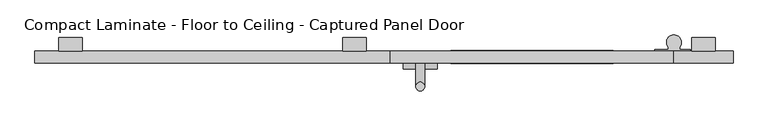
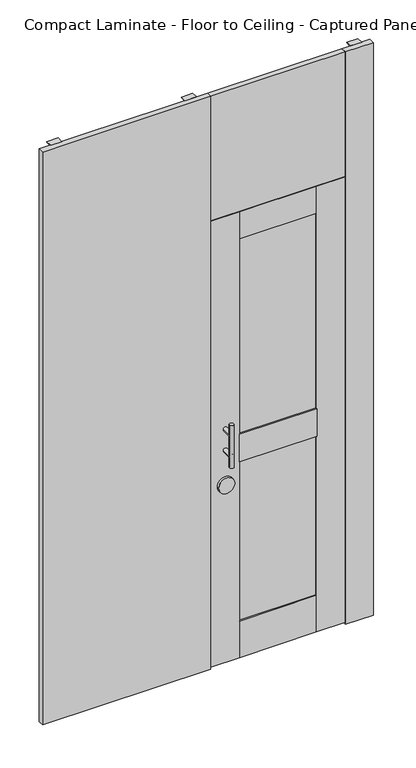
"""IFC4 building model written with IfcOpenShell, lengths in millimetres: proxy geometry, Toilet-Partition_Ironwood-Mfg_Compact-Laminate : Compact Laminate - Floor to Ceiling - Captured Panel Door."""

from ifc_helpers import new_model, si_unit, point, frame, frame_2d, origin, place, context, project, spatial, polyline, circle_curve, ellipse_curve, trimmed, segment, composite_curve, outline, extrude, source, transform, mapped, element, save
from ifc_brep_helpers import plane_surface, cylinder_surface, advanced_brep


def compact_laminate_floor_to_ceiling_captured_panel_door_44a3a528(model_context):
    return source(origin(), model_context, "Body", "SolidModel", [
        extrude(outline(polyline([(-939.8, 2673.35), (-939.8, 2743.2), (-911.225, 2743.2), (-911.225, 2740.025), (-936.625, 2740.025), (-936.625, 2673.35), (-939.8, 2673.35)])), frame((584.2, 0.0, 0.0), z_axis=(1.0, 0.0, 0.0), x_axis=(0.0, 1.0, 0.0)), (0.0, 0.0, 1.0), 50.8),
        extrude(outline(polyline([(-939.8, 69.85), (-936.625, 69.85), (-936.625, 3.175), (-911.225, 3.175), (-911.225, 0.0), (-939.8, 0.0), (-939.8, 69.85)])), frame((584.2, 0.0, 0.0), z_axis=(1.0, 0.0, 0.0), x_axis=(0.0, 1.0, 0.0)), (0.0, 0.0, 1.0), 50.8),
        extrude(outline(polyline([(673.1, -939.8), (673.1, -965.2), (546.1, -965.2), (546.1, -939.8), (673.1, -939.8)])), frame((0.0, 0.0, 3.302), z_axis=(0.0, 0.0, 1.0), x_axis=(1.0, 0.0, 0.0)), (0.0, 0.0, 1.0), 2739.898),
        extrude(outline(polyline([(-939.8, 2673.35), (-939.8, 2743.2), (-911.225, 2743.2), (-911.225, 2740.025), (-936.625, 2740.025), (-936.625, 2673.35), (-939.8, 2673.35)])), frame((-774.7, 0.0, 0.0), z_axis=(1.0, 0.0, 0.0), x_axis=(0.0, 1.0, 0.0)), (0.0, 0.0, 1.0), 50.8),
        extrude(outline(polyline([(-939.8, 2673.35), (-939.8, 2743.2), (-911.225, 2743.2), (-911.225, 2740.025), (-936.625, 2740.025), (-936.625, 2673.35), (-939.8, 2673.35)])), frame((-165.1, 0.0, 0.0), z_axis=(1.0, 0.0, 0.0), x_axis=(0.0, 1.0, 0.0)), (0.0, 0.0, 1.0), 50.8),
        extrude(outline(polyline([(-939.8, 69.85), (-936.625, 69.85), (-936.625, 3.175), (-911.225, 3.175), (-911.225, 0.0), (-939.8, 0.0), (-939.8, 69.85)])), frame((-774.7, 0.0, 0.0), z_axis=(1.0, 0.0, 0.0), x_axis=(0.0, 1.0, 0.0)), (0.0, 0.0, 1.0), 50.8),
        extrude(outline(polyline([(-939.8, 69.85), (-936.625, 69.85), (-936.625, 3.175), (-911.225, 3.175), (-911.225, 0.0), (-939.8, 0.0), (-939.8, 69.85)])), frame((-165.1, 0.0, 0.0), z_axis=(1.0, 0.0, 0.0), x_axis=(0.0, 1.0, 0.0)), (0.0, 0.0, 1.0), 50.8),
        extrude(outline(polyline([(-825.5, -939.8), (-63.5, -939.8), (-63.5, -965.2), (-825.5, -965.2), (-825.5, -939.8)])), frame((0.0, 0.0, 3.302), z_axis=(0.0, 0.0, 1.0), x_axis=(1.0, 0.0, 0.0)), (0.0, 0.0, 1.0), 2739.898),
        extrude(outline(polyline([(415.925, -958.85), (66.675, -958.85), (66.675, -946.15), (415.925, -946.15), (415.925, -958.85)])), frame((0.0, 0.0, 1081.0875), z_axis=(0.0, 0.0, 1.0), x_axis=(1.0, 0.0, 0.0)), (0.0, 0.0, 1.0), 935.0375),
        extrude(outline(polyline([(415.925, -958.85), (66.675, -958.85), (66.675, -946.15), (415.925, -946.15), (415.925, -958.85)])), frame((0.0, 0.0, 187.325), z_axis=(0.0, 0.0, 1.0), x_axis=(1.0, 0.0, 0.0)), (0.0, 0.0, 1.0), 763.5875),
        extrude(outline(polyline([(415.925, -938.2125), (415.925, -966.7875), (66.675, -966.7875), (66.675, -938.2125), (415.925, -938.2125)])), frame((0.0, 0.0, 950.9125), z_axis=(0.0, 0.0, 1.0), x_axis=(1.0, 0.0, 0.0)), (0.0, 0.0, 1.0), 130.175),
        extrude(outline(polyline([(66.675, -939.8), (66.675, -965.2), (-63.5, -965.2), (-63.5, -939.8), (66.675, -939.8)])), frame((0.0, 0.0, 12.7), z_axis=(0.0, 0.0, 1.0), x_axis=(1.0, 0.0, 0.0)), (0.0, 0.0, 1.0), 2133.6),
        extrude(outline(polyline([(415.925, -939.8), (546.1, -939.8), (546.1, -965.2), (415.925, -965.2), (415.925, -939.8)])), frame((0.0, 0.0, 12.7), z_axis=(0.0, 0.0, 1.0), x_axis=(1.0, 0.0, 0.0)), (0.0, 0.0, 1.0), 2133.6),
        extrude(outline(polyline([(415.925, -939.8), (415.925, -965.2), (66.675, -965.2), (66.675, -939.8), (415.925, -939.8)])), frame((0.0, 0.0, 2016.125), z_axis=(0.0, 0.0, 1.0), x_axis=(1.0, 0.0, 0.0)), (0.0, 0.0, 1.0), 130.175),
        extrude(outline(polyline([(415.925, -939.8), (415.925, -965.2), (66.675, -965.2), (66.675, -939.8), (415.925, -939.8)])), frame((0.0, 0.0, 12.7), z_axis=(0.0, 0.0, 1.0), x_axis=(1.0, 0.0, 0.0)), (0.0, 0.0, 1.0), 174.625),
        extrude(outline(composite_curve([segment(trimmed(circle_curve(frame_2d((865.1875, 1.5875)), 36.5125), [point((865.1875, -34.925))], [point((865.1875, 38.1))], False, "CARTESIAN"), True, "CONTINUOUS"), segment(trimmed(circle_curve(frame_2d((865.1875, 1.5875)), 36.5125), [point((865.1875, 38.1))], [point((865.1875, -34.925))], False, "CARTESIAN"), True, "CONTINUOUS")], self_intersect=False)), frame((0.0, -977.9, 0.0), z_axis=(0.0, 1.0, 0.0), x_axis=(0.0, 0.0, 1.0)), (0.0, 0.0, 1.0), 12.7),
        advanced_brep(
        [(-7.9375, -965.2, 1130.3), (11.1125, -965.2, 1130.3), (-7.9375, -965.2, 1028.7), (11.1125, -965.2, 1028.7), (11.1125, -1016.0, 1130.3), (-7.9375, -1016.0, 1130.3), (11.1125, -1016.0, 1028.7), (-7.9375, -1016.0, 1028.7), (-7.9375, -1016.0, 1181.1), (11.1125, -1016.0, 1181.1), (-7.9375, -1016.0, 977.9), (11.1125, -1016.0, 977.9)],
        [
            (0, 1, circle_curve(frame((1.5875, -965.2, 1130.3), z_axis=(0.0, 1.0, 0.0), x_axis=(1.0, 0.0, 0.0)), 9.525)),
            (1, 0, circle_curve(frame((1.5875, -965.2, 1130.3), z_axis=(0.0, 1.0, 0.0), x_axis=(1.0, 0.0, 0.0)), 9.525)),
            (2, 3, circle_curve(frame((1.5875, -965.2, 1028.7), z_axis=(0.0, 1.0, 0.0), x_axis=(1.0, 0.0, 0.0)), 9.525)),
            (3, 2, circle_curve(frame((1.5875, -965.2, 1028.7), z_axis=(0.0, 1.0, 0.0), x_axis=(1.0, 0.0, 0.0)), 9.525)),
            (1, 4),
            (4, 5, ellipse_curve(frame((1.5875, -1016.0, 1130.3), z_axis=(0.0, 0.7071067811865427, 0.7071067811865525), x_axis=(0.0, -0.7071067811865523, 0.7071067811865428)), 13.4703842, 9.525)),
            (5, 0),
            (5, 4, ellipse_curve(frame((1.5875, -1016.0, 1130.3), z_axis=(0.0, 0.7071067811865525, -0.7071067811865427), x_axis=(0.0, -0.7071067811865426, -0.7071067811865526)), 13.4703842, 9.525)),
            (3, 6),
            (6, 7, ellipse_curve(frame((1.5875, -1016.0, 1028.7), z_axis=(0.0, 0.7071067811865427, 0.7071067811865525), x_axis=(0.0, -0.7071067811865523, 0.7071067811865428)), 13.4703842, 9.525)),
            (7, 2),
            (7, 6, ellipse_curve(frame((1.5875, -1016.0, 1028.7), z_axis=(0.0, 0.7071067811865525, -0.7071067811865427), x_axis=(0.0, -0.7071067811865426, -0.7071067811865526)), 13.4703842, 9.525)),
            (8, 9, circle_curve(frame((1.5875, -1016.0, 1181.1), z_axis=(0.0, 0.0, 1.0), x_axis=(1.0, 0.0, 0.0)), 9.525)),
            (9, 8, circle_curve(frame((1.5875, -1016.0, 1181.1), z_axis=(0.0, 0.0, 1.0), x_axis=(1.0, 0.0, 0.0)), 9.525)),
            (10, 11, circle_curve(frame((1.5875, -1016.0, 977.9), z_axis=(0.0, 0.0, -1.0), x_axis=(1.0, 0.0, 0.0)), 9.525)),
            (11, 10, circle_curve(frame((1.5875, -1016.0, 977.9), z_axis=(0.0, 0.0, -1.0), x_axis=(1.0, 0.0, 0.0)), 9.525)),
            (8, 5),
            (5, 7),
            (7, 10),
            (11, 6),
            (6, 4),
            (4, 9),
        ],
        [
            plane_surface(frame((11.1125, -965.2, 1130.3), z_axis=(0.0, 1.0, 0.0), x_axis=(0.0, 0.0, -1.0))),
            cylinder_surface(frame((1.5875, -965.2, 1130.3), z_axis=(0.0, -1.0, 0.0), x_axis=(1.0, 0.0, 0.0)), 9.525),
            cylinder_surface(frame((1.5875, -965.2, 1028.7), z_axis=(0.0, -1.0, 0.0), x_axis=(1.0, 0.0, 0.0)), 9.525),
            plane_surface(frame((11.1125, -1016.0, 1181.1), z_axis=(0.0, 0.0, 1.0), x_axis=(0.0, 1.0, 0.0))),
            plane_surface(frame((11.1125, -1016.0, 977.9), z_axis=(0.0, 0.0, -1.0), x_axis=(0.0, -1.0, 0.0))),
            cylinder_surface(frame((1.5875, -1016.0, 977.9), z_axis=(0.0, 0.0, 1.0), x_axis=(1.0, 0.0, 0.0)), 9.525),
        ],
        [
            (0, [[1, 2]]),
            (0, [[3, 4]]),
            (1, [[-2, 5, 6, 7]]),
            (1, [[-1, -7, 8, -5]]),
            (2, [[-4, 9, 10, 11]]),
            (2, [[-3, -11, 12, -9]]),
            (3, [[13, 14]]),
            (4, [[15, 16]]),
            (5, [[-13, 17, 18, 19, -16, 20, 21, 22]]),
            (5, [[-14, -22, -8, -17]]),
            (5, [[-15, -19, -10, -20]]),
            (5, [[-18, -6, -21, -12]]),
        ],
    ),
        extrude(outline(composite_curve([segment(polyline([(581.3737081, -939.8), (505.1737081, -939.8), (505.1737081, -936.625), (533.7487081, -936.625), (533.7487081, -930.7581331)]), True, "CONTINUOUS"), segment(trimmed(circle_curve(frame_2d((546.1, -920.6902139)), 15.9347861), [point((533.7487081, -930.7581331))], [point((558.4512919, -930.7581331))], False, "CARTESIAN"), True, "CONTINUOUS"), segment(polyline([(558.4512919, -930.7581331), (558.4512919, -936.625), (581.3737081, -936.625), (581.3737081, -939.8)]), True, "CONTINUOUS")], self_intersect=False)), frame((0.0, 0.0, 1943.1), z_axis=(0.0, 0.0, 1.0), x_axis=(1.0, 0.0, 0.0)), (0.0, 0.0, 1.0), 63.5),
        extrude(outline(composite_curve([segment(polyline([(581.3737081, -939.8), (505.1737081, -939.8), (505.1737081, -936.625), (533.7487081, -936.625), (533.7487081, -930.7581331)]), True, "CONTINUOUS"), segment(trimmed(circle_curve(frame_2d((546.1, -920.6902139)), 15.9347861), [point((533.7487081, -930.7581331))], [point((558.4512919, -930.7581331))], False, "CARTESIAN"), True, "CONTINUOUS"), segment(polyline([(558.4512919, -930.7581331), (558.4512919, -936.625), (581.3737081, -936.625), (581.3737081, -939.8)]), True, "CONTINUOUS")], self_intersect=False)), frame((0.0, 0.0, 1047.7500001), z_axis=(0.0, 0.0, 1.0), x_axis=(1.0, 0.0, 0.0)), (0.0, 0.0, 1.0), 63.5),
        extrude(outline(composite_curve([segment(polyline([(581.3737081, -939.8), (505.1737081, -939.8), (505.1737081, -936.625), (533.7487081, -936.625), (533.7487081, -930.7581331)]), True, "CONTINUOUS"), segment(trimmed(circle_curve(frame_2d((546.1, -920.6902139)), 15.9347861), [point((533.7487081, -930.7581331))], [point((558.4512919, -930.7581331))], False, "CARTESIAN"), True, "CONTINUOUS"), segment(polyline([(558.4512919, -930.7581331), (558.4512919, -936.625), (581.3737081, -936.625), (581.3737081, -939.8)]), True, "CONTINUOUS")], self_intersect=False)), frame((0.0, 0.0, 152.4), z_axis=(0.0, 0.0, 1.0), x_axis=(1.0, 0.0, 0.0)), (0.0, 0.0, 1.0), 63.5),
        extrude(outline(polyline([(546.1, -939.8), (546.1, -965.2), (-63.5, -965.2), (-63.5, -939.8), (546.1, -939.8)])), frame((0.0, 0.0, 2147.8875), z_axis=(0.0, 0.0, 1.0), x_axis=(1.0, 0.0, 0.0)), (0.0, 0.0, 1.0), 595.3125),
    ])


if __name__ == "__main__":
    model = new_model("IFC4")
    model_context = context("Model", 3, world=origin())
    ifc_project = project(units=[si_unit("LENGTHUNIT", "METRE", prefix="MILLI")], contexts=[model_context])
    site = spatial("IfcSite", under=ifc_project)
    building = spatial("IfcBuilding", under=site)
    placement = place(None, origin())
    compact_laminate_floor_to_ceiling_captured_panel_door_shape = compact_laminate_floor_to_ceiling_captured_panel_door_44a3a528(model_context)
    element("IfcBuildingElementProxy", 1, Name="Toilet-Partition_Ironwood-Mfg_Compact-Laminate : Compact Laminate - Floor to Ceiling - Captured Panel Door", ObjectType="Toilet-Partition_Ironwood-Mfg_Compact-Laminate : Compact Laminate - Floor to Ceiling - Captured Panel Door", at=placement, inside=building, context=model_context, shape_type="MappedRepresentation", body=[
        mapped(compact_laminate_floor_to_ceiling_captured_panel_door_shape, transform((0.0, 0.0, 0.0), x_axis=(1.0, 0.0, 0.0), y_axis=(0.0, 1.0, 0.0), z_axis=(0.0, 0.0, 1.0))),
    ])
    save(model, "model.ifc")
